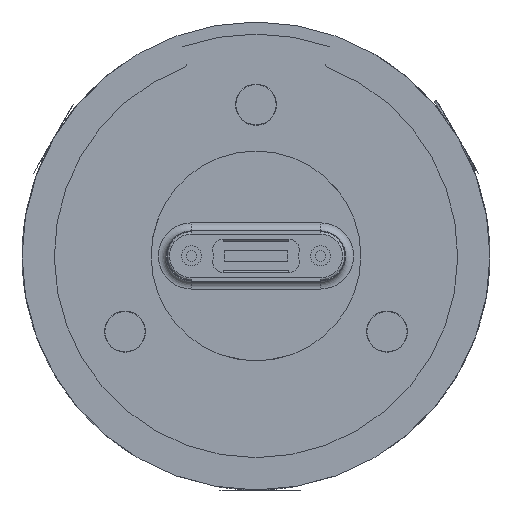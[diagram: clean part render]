
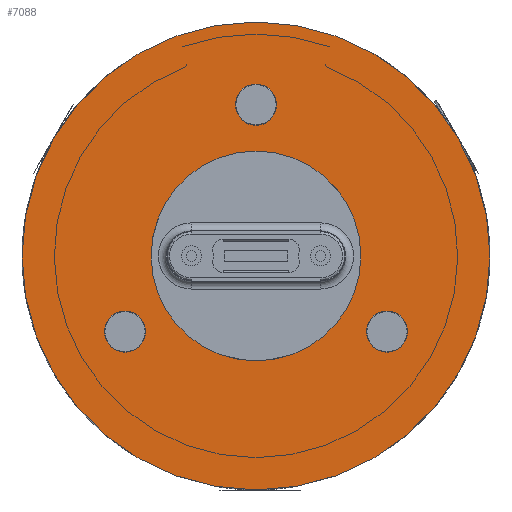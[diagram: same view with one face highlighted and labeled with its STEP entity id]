
A CAD part, front view. The second image highlights one B-rep face of the part: STEP entity #7088.
In plain terms, the highlighted planar face has unit normal (0, -1, 0).
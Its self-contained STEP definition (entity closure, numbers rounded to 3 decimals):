
#6493=CARTESIAN_POINT('',(0.,-0.5,0.));
#6494=DIRECTION('',(0.,-1.,0.));
#6495=DIRECTION('',(1.,0.,0.));
#6496=AXIS2_PLACEMENT_3D('',#6493,#6494,#6495);
#6498=CARTESIAN_POINT('',(0.,-0.5,0.));
#6499=DIRECTION('',(0.,-1.,0.));
#6500=DIRECTION('',(-1.,0.,0.));
#6501=AXIS2_PLACEMENT_3D('',#6498,#6499,#6500);
#6503=CARTESIAN_POINT('',(0.,-0.5,0.));
#6504=DIRECTION('',(0.,1.,0.));
#6505=DIRECTION('',(1.,0.,0.));
#6506=AXIS2_PLACEMENT_3D('',#6503,#6504,#6505);
#6508=CARTESIAN_POINT('',(0.,-0.5,0.));
#6509=DIRECTION('',(0.,1.,0.));
#6510=DIRECTION('',(-1.,0.,0.));
#6511=AXIS2_PLACEMENT_3D('',#6508,#6509,#6510);
#6513=CARTESIAN_POINT('',(0.,-0.5,18.75));
#6514=DIRECTION('',(0.,-1.,0.));
#6515=DIRECTION('',(1.,0.,0.));
#6516=AXIS2_PLACEMENT_3D('',#6513,#6514,#6515);
#6518=CARTESIAN_POINT('',(0.,-0.5,18.75));
#6519=DIRECTION('',(0.,-1.,0.));
#6520=DIRECTION('',(-1.,0.,0.));
#6521=AXIS2_PLACEMENT_3D('',#6518,#6519,#6520);
#6523=CARTESIAN_POINT('',(16.238,-0.5,-9.375));
#6524=DIRECTION('',(0.,-1.,0.));
#6525=DIRECTION('',(-0.5,0.,-0.866));
#6526=AXIS2_PLACEMENT_3D('',#6523,#6524,#6525);
#6528=CARTESIAN_POINT('',(16.238,-0.5,-9.375));
#6529=DIRECTION('',(0.,-1.,0.));
#6530=DIRECTION('',(0.5,0.,0.866));
#6531=AXIS2_PLACEMENT_3D('',#6528,#6529,#6530);
#6533=CARTESIAN_POINT('',(-16.238,-0.5,-9.375));
#6534=DIRECTION('',(0.,-1.,0.));
#6535=DIRECTION('',(-0.5,0.,0.866));
#6536=AXIS2_PLACEMENT_3D('',#6533,#6534,#6535);
#6538=CARTESIAN_POINT('',(-16.238,-0.5,-9.375));
#6539=DIRECTION('',(0.,-1.,0.));
#6540=DIRECTION('',(0.5,0.,-0.866));
#6541=AXIS2_PLACEMENT_3D('',#6538,#6539,#6540);
#6927=CARTESIAN_POINT('',(29.,-0.5,0.));
#6928=CARTESIAN_POINT('',(-29.,-0.5,0.));
#6929=VERTEX_POINT('',#6927);
#6930=VERTEX_POINT('',#6928);
#6931=CARTESIAN_POINT('',(13.,-0.5,0.));
#6932=CARTESIAN_POINT('',(-13.,-0.5,0.));
#6933=VERTEX_POINT('',#6931);
#6934=VERTEX_POINT('',#6932);
#6935=CARTESIAN_POINT('',(-2.55,-0.5,18.75));
#6936=CARTESIAN_POINT('',(2.55,-0.5,18.75));
#6937=VERTEX_POINT('',#6935);
#6938=VERTEX_POINT('',#6936);
#6939=CARTESIAN_POINT('',(17.513,-0.5,-7.167));
#6940=CARTESIAN_POINT('',(14.963,-0.5,-11.583));
#6941=VERTEX_POINT('',#6939);
#6942=VERTEX_POINT('',#6940);
#6943=CARTESIAN_POINT('',(-14.963,-0.5,-11.583));
#6944=CARTESIAN_POINT('',(-17.513,-0.5,-7.167));
#6945=VERTEX_POINT('',#6943);
#6946=VERTEX_POINT('',#6944);
#7055=CARTESIAN_POINT('',(0.,-0.5,0.));
#7056=DIRECTION('',(0.,-1.,0.));
#7057=DIRECTION('',(1.,0.,0.));
#7058=AXIS2_PLACEMENT_3D('',#7055,#7056,#7057);
#7059=PLANE('',#7058);
#7061=ORIENTED_EDGE('',*,*,#7060,.F.);
#7063=ORIENTED_EDGE('',*,*,#7062,.F.);
#7064=EDGE_LOOP('',(#7061,#7063));
#7065=FACE_OUTER_BOUND('',#7064,.F.);
#7066=ORIENTED_EDGE('',*,*,#7042,.F.);
#7067=ORIENTED_EDGE('',*,*,#7004,.F.);
#7068=EDGE_LOOP('',(#7066,#7067));
#7069=FACE_BOUND('',#7068,.F.);
#7071=ORIENTED_EDGE('',*,*,#7070,.T.);
#7073=ORIENTED_EDGE('',*,*,#7072,.T.);
#7074=EDGE_LOOP('',(#7071,#7073));
#7075=FACE_BOUND('',#7074,.F.);
#7077=ORIENTED_EDGE('',*,*,#7076,.T.);
#7079=ORIENTED_EDGE('',*,*,#7078,.T.);
#7080=EDGE_LOOP('',(#7077,#7079));
#7081=FACE_BOUND('',#7080,.F.);
#7083=ORIENTED_EDGE('',*,*,#7082,.T.);
#7085=ORIENTED_EDGE('',*,*,#7084,.T.);
#7086=EDGE_LOOP('',(#7083,#7085));
#7087=FACE_BOUND('',#7086,.F.);
#7088=ADVANCED_FACE('',(#7065,#7069,#7075,#7081,#7087),#7059,.T.);
#6497=CIRCLE('',#6496,29.);
#6502=CIRCLE('',#6501,29.);
#6507=CIRCLE('',#6506,13.);
#6512=CIRCLE('',#6511,13.);
#6517=CIRCLE('',#6516,2.55);
#6522=CIRCLE('',#6521,2.55);
#6527=CIRCLE('',#6526,2.55);
#6532=CIRCLE('',#6531,2.55);
#6537=CIRCLE('',#6536,2.55);
#6542=CIRCLE('',#6541,2.55);
#7004=EDGE_CURVE('',#6934,#6933,#6512,.T.);
#7042=EDGE_CURVE('',#6933,#6934,#6507,.T.);
#7060=EDGE_CURVE('',#6929,#6930,#6497,.T.);
#7062=EDGE_CURVE('',#6930,#6929,#6502,.T.);
#7070=EDGE_CURVE('',#6938,#6937,#6517,.T.);
#7072=EDGE_CURVE('',#6937,#6938,#6522,.T.);
#7076=EDGE_CURVE('',#6942,#6941,#6527,.T.);
#7078=EDGE_CURVE('',#6941,#6942,#6532,.T.);
#7082=EDGE_CURVE('',#6946,#6945,#6537,.T.);
#7084=EDGE_CURVE('',#6945,#6946,#6542,.T.);
